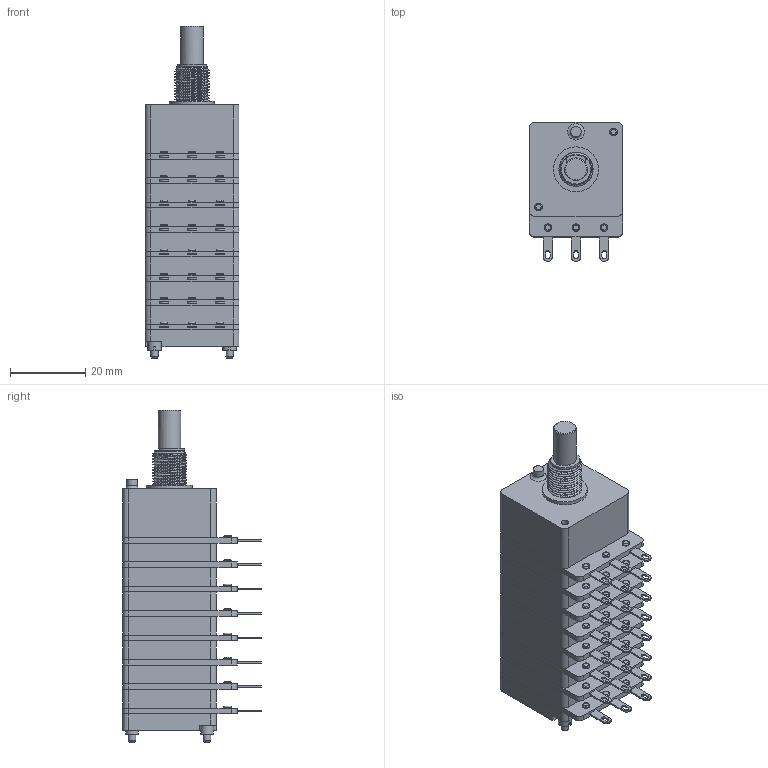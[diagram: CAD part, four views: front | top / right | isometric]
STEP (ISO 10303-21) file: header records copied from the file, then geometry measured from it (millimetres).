
FILE_DESCRIPTION(('FreeCAD Model'),'2;1');
FILE_NAME('Open CASCADE Shape Model','2023-03-21T17:06:51',(''),(''), 'Open CASCADE STEP processor 7.6','FreeCAD','Unknown');
FILE_SCHEMA(('AUTOMOTIVE_DESIGN { 1 0 10303 214 1 1 1 1 }'));
Products named in the file (1): Fusion035
Bounding box: 25 x 37 x 88.5 mm (x, y, z)
Volume: 42476.4 mm3; surface area: 13617.9 mm2
Topology: 1 solids, 41 shells, 763 faces, 1652 edges, 1039 vertices
Faces by surface type: plane 398, cylinder 295, bspline 38, torus 26, cone 6
Full cylindrical faces by diameter (mm): 1.9 x2, 2 x60, 2.2 x30, 2.8 x1, 3.5 x2, 4.5 x8, 5.4 x1, 6 x1, 6.05 x1, 8 x1, 9.09 x11, 12 x1
Entity records: 53184 total; most frequent: CARTESIAN_POINT 17892, DIRECTION 6007, ORIENTED_EDGE 3302, PCURVE 3302, DEFINITIONAL_REPRESENTATION 3302, LINE 3021, VECTOR 3021, EDGE_CURVE 1651
